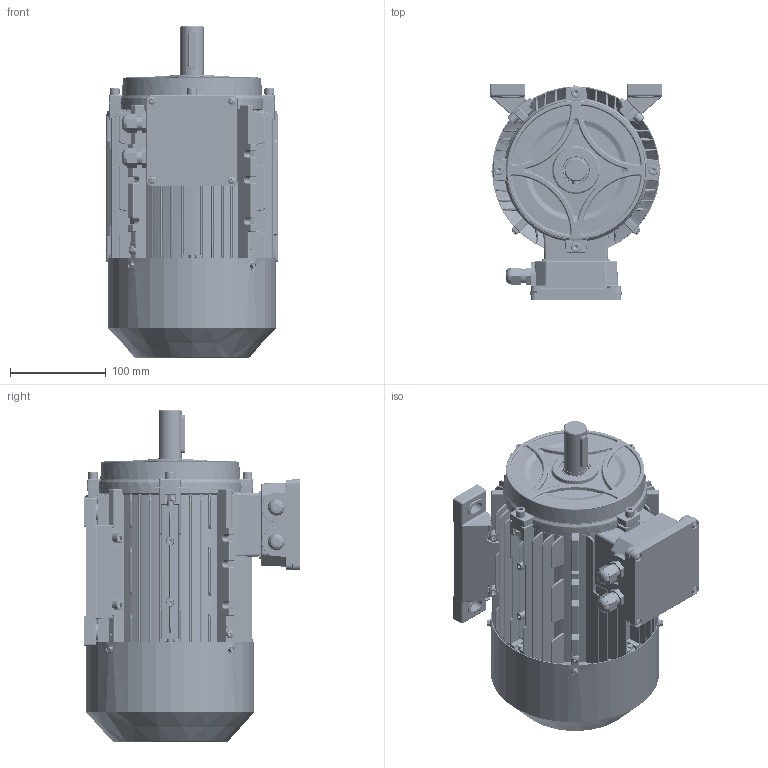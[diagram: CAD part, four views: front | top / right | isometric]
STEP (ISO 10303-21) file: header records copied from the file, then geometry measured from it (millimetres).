
FILE_DESCRIPTION (( 'STEP AP214' ), '1' );
FILE_NAME ('MX3-90L_B3.STEP', '2017-12-20T13:31:52', ( '' ), ( '' ), 'SwSTEP 2.0', 'SolidWorks 2012', '' );
FILE_SCHEMA (( 'AUTOMOTIVE_DESIGN' ));
Products named in the file (24): IE3 90L flange B3; hexagon socket head cap screws gb_GB_FASTENER_SCREWS_HSHCS M6X25-N; hexagon nuts grade c gb_GB_FASTENER_NUT_SNC1 M6-N; IE3 90L feet; IE3 90L  oil seal; IE3 90L cable glandsM16; cross recessed pan head screws gb_GB_CROSS_SCREWS_TYPE1 M5X10-10  H type-N; cross recessed pan head screws gb_GB_CROSS_SCREWS_TYPE1 M4X5-5  H type-N; plain washers-n series-grade a gb_GB_FASTENER_WASHER_PWNA 4; IE3 90L grouding mark; circlips for shaft--type a large gb_GB_CONNECTING_PIECE_RING_RRA 19; IE3 90L flange; hexagon socket head cap screws gb_GB_FASTENER_SCREWS_HSHCS M6X30-N; hexagon flange head tapping screws gb_GB_SQUARE_AND_HEXAGON_TYPE137 ST4.2X9.5 F-N; cross recessed pan head tapping screws gb_GB_CROSS_SCREWS_TYPE128 ST4.2X9.5 H C-N; spring lock washers--normal type gb_GB_FASTENER_WASHER_SW 6; IE3 90L terminal box cover; IE3 90L terminal box; plain parallel keys_GB_CONNECTING_PIECE_KEYS_CSK 8X40; IE3 90L fan cover; IE3 90L fan; IE3 90L rotor; IE3 90L casing; MX3-90L_B3
Assembly tree (65 placements, depth 2):
  MX3-90L_B3
    IE3 90L casing
    IE3 90L rotor
    IE3 90L fan
    IE3 90L fan cover
    plain parallel keys_GB_CONNECTING_PIECE_KEYS_CSK 8X40
    IE3 90L terminal box
    IE3 90L terminal box cover
    spring lock washers--normal type gb_GB_FASTENER_WASHER_SW 6  x12
    cross recessed pan head tapping screws gb_GB_CROSS_SCREWS_TYPE128 ST4.2X9.5 H C-N  x4
    hexagon flange head tapping screws gb_GB_SQUARE_AND_HEXAGON_TYPE137 ST4.2X9.5 F-N  x4
    hexagon socket head cap screws gb_GB_FASTENER_SCREWS_HSHCS M6X30-N  x8
    IE3 90L flange
    circlips for shaft--type a large gb_GB_CONNECTING_PIECE_RING_RRA 19
    IE3 90L grouding mark
    plain washers-n series-grade a gb_GB_FASTENER_WASHER_PWNA 4
    cross recessed pan head screws gb_GB_CROSS_SCREWS_TYPE1 M4X5-5  H type-N
    cross recessed pan head screws gb_GB_CROSS_SCREWS_TYPE1 M5X10-10  H type-N  x4
    IE3 90L cable glandsM16  x2
    IE3 90L  oil seal
    IE3 90L feet  x2
    hexagon nuts grade c gb_GB_FASTENER_NUT_SNC1 M6-N  x11
    hexagon socket head cap screws gb_GB_FASTENER_SCREWS_HSHCS M6X25-N  x4
    IE3 90L flange B3
Bounding box: 179.55 x 225.5 x 345.9 mm (x, y, z)
Volume: 1854250.5 mm3; surface area: 855686.8 mm2
Topology: 65 solids, 65 shells, 5814 faces, 14516 edges, 8820 vertices
Faces by surface type: plane 1855, cylinder 1733, bspline 1461, cone 427, sphere 196, torus 142
Entity records: 204753 total; most frequent: CARTESIAN_POINT 104996, ORIENTED_EDGE 23192, DIRECTION 16768, EDGE_CURVE 11596, VERTEX_POINT 7120, AXIS2_PLACEMENT_3D 6153, EDGE_LOOP 5000, ADVANCED_FACE 4633
